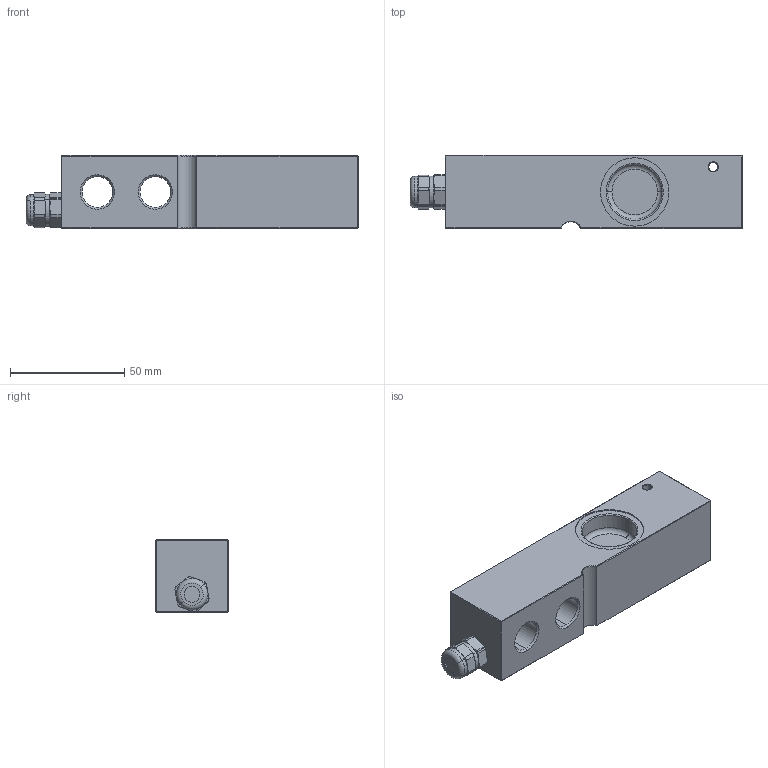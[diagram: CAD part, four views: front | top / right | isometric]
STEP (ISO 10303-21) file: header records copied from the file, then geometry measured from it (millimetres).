
FILE_DESCRIPTION (( 'STEP AP214' ), '1' );
FILE_NAME ('3510-2000kg-T.STEP', '2024-01-29T10:28:37', ( '' ), ( '' ), 'SwSTEP 2.0', 'SolidWorks 2019', '' );
FILE_SCHEMA (( 'AUTOMOTIVE_DESIGN' ));
Length unit declared in the file: millimetre
Products named in the file (2): 3510-2000kg-T
Bounding box: 145.5 x 32 x 32 mm (x, y, z)
Volume: 112389.9 mm3; surface area: 23939.8 mm2
Topology: 1 solids, 3 shells, 137 faces, 322 edges, 196 vertices
Faces by surface type: plane 53, cylinder 45, cone 29, torus 10
Entity records: 5227 total; most frequent: CARTESIAN_POINT 882, DIRECTION 696, ORIENTED_EDGE 644, EDGE_CURVE 322, AXIS2_PLACEMENT_3D 276, VERTEX_POINT 196, EDGE_LOOP 154, LINE 144
